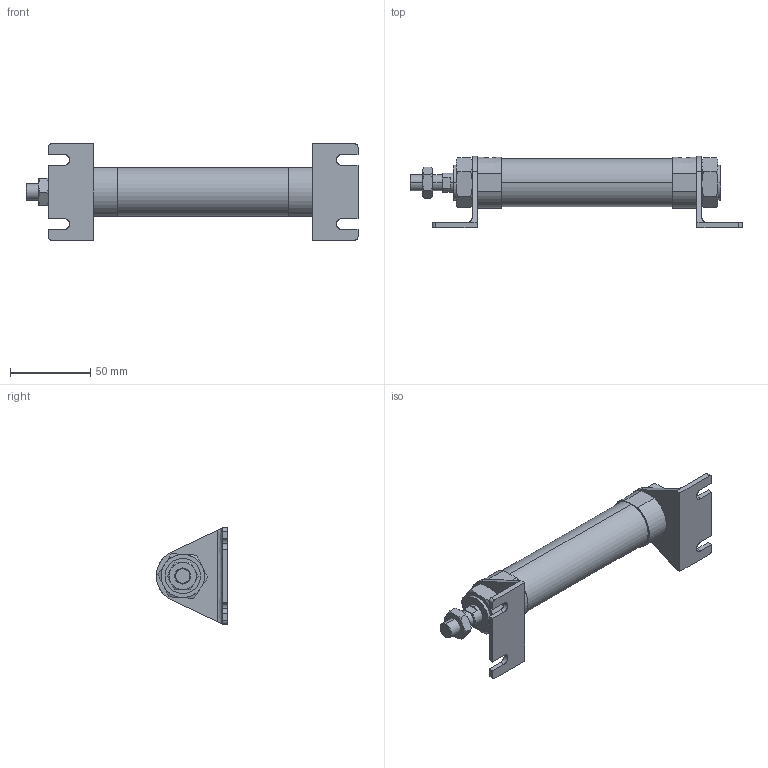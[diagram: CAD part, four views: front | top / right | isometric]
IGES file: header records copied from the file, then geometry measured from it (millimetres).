
Start section: SolidWorks IGES file using analytic representation for surfaces
Global section: file name: C:\Users\Toshiba\Desktop\J#2-25-75-L.IGS; native system: SolidWorks 2014; preprocessor: SolidWorks 2014; author: Toshiba; date: 160310.085400; units: millimetre
Bounding box: 207.2 x 44.5 x 60 mm (x, y, z)
Surface area: 37148.6 mm2 (no closed solid volume)
Topology: 0 solids, 0 shells, 171 faces, 2800 edges, 2796 vertices
Faces by surface type: bspline 111, revolution 60
